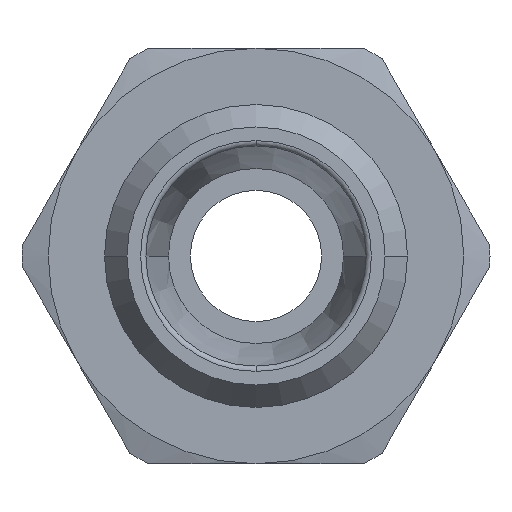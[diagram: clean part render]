
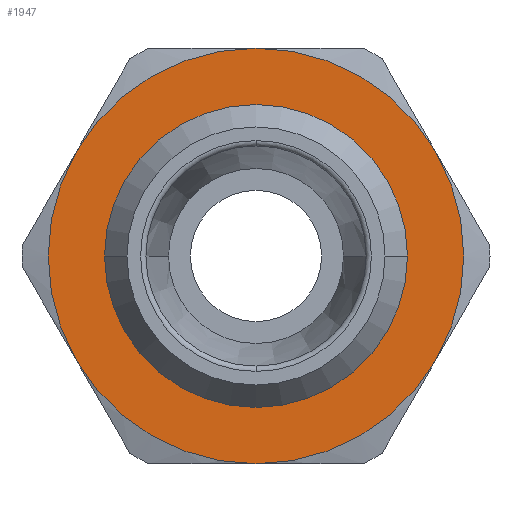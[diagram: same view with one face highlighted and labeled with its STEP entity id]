
A CAD part, left-side view. The second image highlights one B-rep face of the part: STEP entity #1947.
In plain terms, the highlighted planar face has unit normal (-1, 0, 0) as drawn and (0, 0, 1) by its records, which use the part's own axes.
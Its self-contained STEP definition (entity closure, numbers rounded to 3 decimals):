
#857=CARTESIAN_POINT('',(-6.8,0.,2.5));
#858=VERTEX_POINT('',#857);
#884=CARTESIAN_POINT('',(6.8,0.,2.5));
#885=VERTEX_POINT('',#884);
#893=CARTESIAN_POINT('',(0.,0.,2.5));
#894=DIRECTION('',(0.0,0.0,1.0));
#895=DIRECTION('',(-1.0,0.0,0.0));
#896=AXIS2_PLACEMENT_3D('',#893,#894,#895);
#897=CIRCLE('',#896,6.8);
#898=EDGE_CURVE('',#885,#858,#897,.T.);
#1827=CARTESIAN_POINT('',(0.,-6.8,2.5));
#1828=VERTEX_POINT('',#1827);
#1829=CARTESIAN_POINT('',(0.,0.,2.5));
#1830=DIRECTION('',(0.0,0.0,1.0));
#1831=DIRECTION('',(-1.0,0.0,0.0));
#1832=AXIS2_PLACEMENT_3D('',#1829,#1830,#1831);
#1833=CIRCLE('',#1832,6.8);
#1834=EDGE_CURVE('',#858,#1828,#1833,.T.);
#1836=CARTESIAN_POINT('',(0.,0.,2.5));
#1837=DIRECTION('',(0.0,0.0,1.0));
#1838=DIRECTION('',(-1.0,0.0,0.0));
#1839=AXIS2_PLACEMENT_3D('',#1836,#1837,#1838);
#1840=CIRCLE('',#1839,6.8);
#1841=EDGE_CURVE('',#1828,#885,#1840,.T.);
#1881=CARTESIAN_POINT('',(0.,0.,2.5));
#1882=DIRECTION('',(0.0,0.0,1.0));
#1883=DIRECTION('',(1.0,0.0,0.0));
#1884=AXIS2_PLACEMENT_3D('',#1881,#1882,#1883);
#1885=PLANE('',#1884);
#1886=CARTESIAN_POINT('',(4.75,-8.227,2.5));
#1887=VERTEX_POINT('',#1886);
#1888=CARTESIAN_POINT('',(9.5,0.0,2.5));
#1889=VERTEX_POINT('',#1888);
#1890=CARTESIAN_POINT('',(0.,0.0,2.5));
#1891=DIRECTION('',(0.0,0.0,1.0));
#1892=DIRECTION('',(1.0,0.0,0.0));
#1893=AXIS2_PLACEMENT_3D('',#1890,#1891,#1892);
#1894=CIRCLE('',#1893,9.5);
#1895=EDGE_CURVE('',#1887,#1889,#1894,.T.);
#1896=ORIENTED_EDGE('',*,*,#1895,.T.);
#1897=CARTESIAN_POINT('',(4.75,8.227,2.5));
#1898=VERTEX_POINT('',#1897);
#1899=CARTESIAN_POINT('',(0.,0.0,2.5));
#1900=DIRECTION('',(0.0,0.0,1.0));
#1901=DIRECTION('',(1.0,0.0,0.0));
#1902=AXIS2_PLACEMENT_3D('',#1899,#1900,#1901);
#1903=CIRCLE('',#1902,9.5);
#1904=EDGE_CURVE('',#1889,#1898,#1903,.T.);
#1905=ORIENTED_EDGE('',*,*,#1904,.T.);
#1906=CARTESIAN_POINT('',(-4.75,8.227,2.5));
#1907=VERTEX_POINT('',#1906);
#1908=CARTESIAN_POINT('',(0.,0.0,2.5));
#1909=DIRECTION('',(0.0,0.0,1.0));
#1910=DIRECTION('',(1.0,0.0,0.0));
#1911=AXIS2_PLACEMENT_3D('',#1908,#1909,#1910);
#1912=CIRCLE('',#1911,9.5);
#1913=EDGE_CURVE('',#1898,#1907,#1912,.T.);
#1914=ORIENTED_EDGE('',*,*,#1913,.T.);
#1915=CARTESIAN_POINT('',(-9.5,0.,2.5));
#1916=VERTEX_POINT('',#1915);
#1917=CARTESIAN_POINT('',(0.,0.0,2.5));
#1918=DIRECTION('',(0.0,0.0,1.0));
#1919=DIRECTION('',(1.0,0.0,0.0));
#1920=AXIS2_PLACEMENT_3D('',#1917,#1918,#1919);
#1921=CIRCLE('',#1920,9.5);
#1922=EDGE_CURVE('',#1907,#1916,#1921,.T.);
#1923=ORIENTED_EDGE('',*,*,#1922,.T.);
#1924=CARTESIAN_POINT('',(-4.75,-8.227,2.5));
#1925=VERTEX_POINT('',#1924);
#1926=CARTESIAN_POINT('',(0.,0.0,2.5));
#1927=DIRECTION('',(0.0,0.0,1.0));
#1928=DIRECTION('',(1.0,0.0,0.0));
#1929=AXIS2_PLACEMENT_3D('',#1926,#1927,#1928);
#1930=CIRCLE('',#1929,9.5);
#1931=EDGE_CURVE('',#1916,#1925,#1930,.T.);
#1932=ORIENTED_EDGE('',*,*,#1931,.T.);
#1933=CARTESIAN_POINT('',(0.,0.0,2.5));
#1934=DIRECTION('',(0.0,0.0,1.0));
#1935=DIRECTION('',(1.0,0.0,0.0));
#1936=AXIS2_PLACEMENT_3D('',#1933,#1934,#1935);
#1937=CIRCLE('',#1936,9.5);
#1938=EDGE_CURVE('',#1925,#1887,#1937,.T.);
#1939=ORIENTED_EDGE('',*,*,#1938,.T.);
#1940=EDGE_LOOP('',(#1896,#1905,#1914,#1923,#1932,#1939));
#1941=FACE_OUTER_BOUND('',#1940,.T.);
#1942=ORIENTED_EDGE('',*,*,#1841,.F.);
#1943=ORIENTED_EDGE('',*,*,#1834,.F.);
#1944=ORIENTED_EDGE('',*,*,#898,.F.);
#1945=EDGE_LOOP('',(#1942,#1943,#1944));
#1946=FACE_BOUND('',#1945,.T.);
#1947=ADVANCED_FACE('',(#1941,#1946),#1885,.T.);
